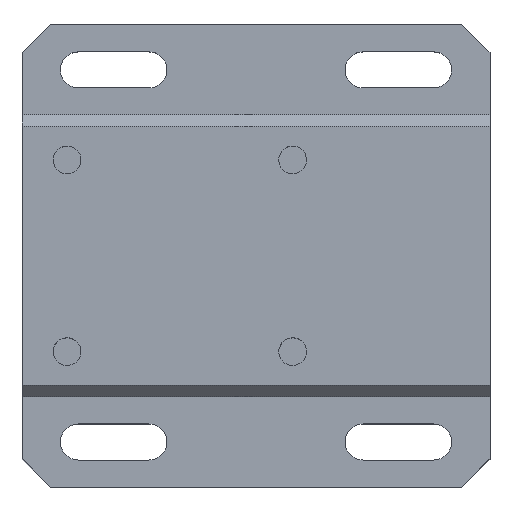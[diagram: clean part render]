
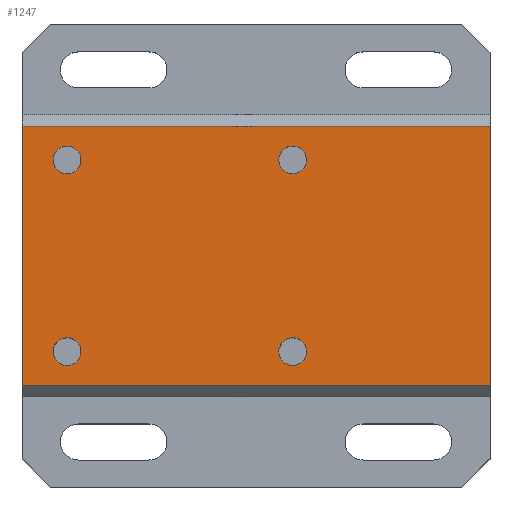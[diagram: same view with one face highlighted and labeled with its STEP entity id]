
A CAD part, top view. The second image highlights one B-rep face of the part: STEP entity #1247.
In plain terms, the highlighted planar face has unit normal (0, 0, 1).
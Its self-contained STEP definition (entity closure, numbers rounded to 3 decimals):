
#549=AXIS2_PLACEMENT_3D('Circle Axis2P3D',#547,#548,$) ;
#575=AXIS2_PLACEMENT_3D('Circle Axis2P3D',#573,#574,$) ;
#611=AXIS2_PLACEMENT_3D('Circle Axis2P3D',#609,#610,$) ;
#637=AXIS2_PLACEMENT_3D('Circle Axis2P3D',#635,#636,$) ;
#673=AXIS2_PLACEMENT_3D('Circle Axis2P3D',#671,#672,$) ;
#699=AXIS2_PLACEMENT_3D('Circle Axis2P3D',#697,#698,$) ;
#735=AXIS2_PLACEMENT_3D('Circle Axis2P3D',#733,#734,$) ;
#761=AXIS2_PLACEMENT_3D('Circle Axis2P3D',#759,#760,$) ;
#1204=AXIS2_PLACEMENT_3D('Plane Axis2P3D',#1201,#1202,#1203) ;
#547=CARTESIAN_POINT('Axis2P3D Location',(-33.5,17.,29.9)) ;
#551=CARTESIAN_POINT('Vertex',(-31.342,15.821,29.9)) ;
#553=CARTESIAN_POINT('Vertex',(-35.658,18.179,29.9)) ;
#573=CARTESIAN_POINT('Axis2P3D Location',(-33.5,17.,29.9)) ;
#609=CARTESIAN_POINT('Axis2P3D Location',(6.5,-17.,29.9)) ;
#613=CARTESIAN_POINT('Vertex',(4.342,-15.821,29.9)) ;
#615=CARTESIAN_POINT('Vertex',(8.658,-18.179,29.9)) ;
#635=CARTESIAN_POINT('Axis2P3D Location',(6.5,-17.,29.9)) ;
#671=CARTESIAN_POINT('Axis2P3D Location',(-33.5,-17.,29.9)) ;
#675=CARTESIAN_POINT('Vertex',(-35.658,-15.821,29.9)) ;
#677=CARTESIAN_POINT('Vertex',(-31.342,-18.179,29.9)) ;
#697=CARTESIAN_POINT('Axis2P3D Location',(-33.5,-17.,29.9)) ;
#733=CARTESIAN_POINT('Axis2P3D Location',(6.5,17.,29.9)) ;
#737=CARTESIAN_POINT('Vertex',(4.342,18.179,29.9)) ;
#739=CARTESIAN_POINT('Vertex',(8.658,15.821,29.9)) ;
#759=CARTESIAN_POINT('Axis2P3D Location',(6.5,17.,29.9)) ;
#1144=CARTESIAN_POINT('Line Origine',(0.,-23.,29.9)) ;
#1148=CARTESIAN_POINT('Vertex',(-41.5,-23.,29.9)) ;
#1150=CARTESIAN_POINT('Vertex',(41.5,-23.,29.9)) ;
#1201=CARTESIAN_POINT('Axis2P3D Location',(0.,0.,29.9)) ;
#1206=CARTESIAN_POINT('Line Origine',(-41.5,0.,29.9)) ;
#1210=CARTESIAN_POINT('Vertex',(-41.5,23.,29.9)) ;
#1213=CARTESIAN_POINT('Line Origine',(41.5,0.,29.9)) ;
#1217=CARTESIAN_POINT('Vertex',(41.5,23.,29.9)) ;
#1220=CARTESIAN_POINT('Line Origine',(0.,23.,29.9)) ;
#548=DIRECTION('Axis2P3D Direction',(0.,-0.,-1.)) ;
#574=DIRECTION('Axis2P3D Direction',(0.,-0.,-1.)) ;
#610=DIRECTION('Axis2P3D Direction',(0.,-0.,-1.)) ;
#636=DIRECTION('Axis2P3D Direction',(0.,-0.,-1.)) ;
#672=DIRECTION('Axis2P3D Direction',(0.,-0.,-1.)) ;
#698=DIRECTION('Axis2P3D Direction',(0.,-0.,-1.)) ;
#734=DIRECTION('Axis2P3D Direction',(0.,-0.,-1.)) ;
#760=DIRECTION('Axis2P3D Direction',(0.,-0.,-1.)) ;
#1145=DIRECTION('Vector Direction',(-1.,0.,0.)) ;
#1202=DIRECTION('Axis2P3D Direction',(0.,0.,1.)) ;
#1203=DIRECTION('Axis2P3D XDirection',(1.,0.,0.)) ;
#1207=DIRECTION('Vector Direction',(0.,-1.,0.)) ;
#1214=DIRECTION('Vector Direction',(0.,1.,0.)) ;
#1221=DIRECTION('Vector Direction',(1.,0.,0.)) ;
#1146=VECTOR('Line Direction',#1145,1.) ;
#1208=VECTOR('Line Direction',#1207,1.) ;
#1215=VECTOR('Line Direction',#1214,1.) ;
#1222=VECTOR('Line Direction',#1221,1.) ;
#1226=ORIENTED_EDGE('',*,*,#1212,.T.) ;
#1227=ORIENTED_EDGE('',*,*,#1152,.T.) ;
#1228=ORIENTED_EDGE('',*,*,#1219,.T.) ;
#1229=ORIENTED_EDGE('',*,*,#1224,.T.) ;
#1232=ORIENTED_EDGE('',*,*,#577,.F.) ;
#1233=ORIENTED_EDGE('',*,*,#555,.F.) ;
#1236=ORIENTED_EDGE('',*,*,#763,.F.) ;
#1237=ORIENTED_EDGE('',*,*,#741,.F.) ;
#1240=ORIENTED_EDGE('',*,*,#701,.F.) ;
#1241=ORIENTED_EDGE('',*,*,#679,.F.) ;
#1244=ORIENTED_EDGE('',*,*,#639,.F.) ;
#1245=ORIENTED_EDGE('',*,*,#617,.F.) ;
#1234=FACE_BOUND('',#1231,.T.) ;
#1238=FACE_BOUND('',#1235,.T.) ;
#1242=FACE_BOUND('',#1239,.T.) ;
#1246=FACE_BOUND('',#1243,.T.) ;
#1247=ADVANCED_FACE('\X2\96F64EF651E04F554F53\X0\',(#1230,#1234,#1238,#1242,#1246),#1205,.T.) ;
#550=CIRCLE('generated circle',#549,2.459) ;
#576=CIRCLE('generated circle',#575,2.459) ;
#612=CIRCLE('generated circle',#611,2.459) ;
#638=CIRCLE('generated circle',#637,2.459) ;
#674=CIRCLE('generated circle',#673,2.459) ;
#700=CIRCLE('generated circle',#699,2.459) ;
#736=CIRCLE('generated circle',#735,2.459) ;
#762=CIRCLE('generated circle',#761,2.459) ;
#555=EDGE_CURVE('',#552,#554,#550,.F.) ;
#577=EDGE_CURVE('',#554,#552,#576,.F.) ;
#617=EDGE_CURVE('',#614,#616,#612,.F.) ;
#639=EDGE_CURVE('',#616,#614,#638,.F.) ;
#679=EDGE_CURVE('',#676,#678,#674,.F.) ;
#701=EDGE_CURVE('',#678,#676,#700,.F.) ;
#741=EDGE_CURVE('',#738,#740,#736,.F.) ;
#763=EDGE_CURVE('',#740,#738,#762,.F.) ;
#1152=EDGE_CURVE('',#1149,#1151,#1147,.F.) ;
#1212=EDGE_CURVE('',#1211,#1149,#1209,.T.) ;
#1219=EDGE_CURVE('',#1151,#1218,#1216,.T.) ;
#1224=EDGE_CURVE('',#1218,#1211,#1223,.F.) ;
#1225=EDGE_LOOP('',(#1226,#1227,#1228,#1229)) ;
#1231=EDGE_LOOP('',(#1232,#1233)) ;
#1235=EDGE_LOOP('',(#1236,#1237)) ;
#1239=EDGE_LOOP('',(#1240,#1241)) ;
#1243=EDGE_LOOP('',(#1244,#1245)) ;
#1230=FACE_OUTER_BOUND('',#1225,.T.) ;
#1147=LINE('Line',#1144,#1146) ;
#1209=LINE('Line',#1206,#1208) ;
#1216=LINE('Line',#1213,#1215) ;
#1223=LINE('Line',#1220,#1222) ;
#1205=PLANE('',#1204) ;
#552=VERTEX_POINT('',#551) ;
#554=VERTEX_POINT('',#553) ;
#614=VERTEX_POINT('',#613) ;
#616=VERTEX_POINT('',#615) ;
#676=VERTEX_POINT('',#675) ;
#678=VERTEX_POINT('',#677) ;
#738=VERTEX_POINT('',#737) ;
#740=VERTEX_POINT('',#739) ;
#1149=VERTEX_POINT('',#1148) ;
#1151=VERTEX_POINT('',#1150) ;
#1211=VERTEX_POINT('',#1210) ;
#1218=VERTEX_POINT('',#1217) ;
